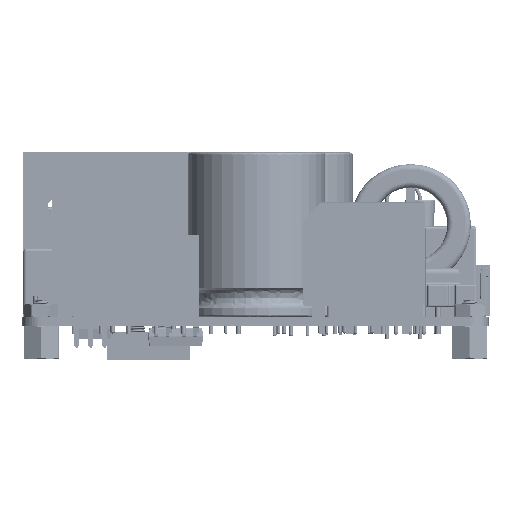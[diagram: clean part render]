
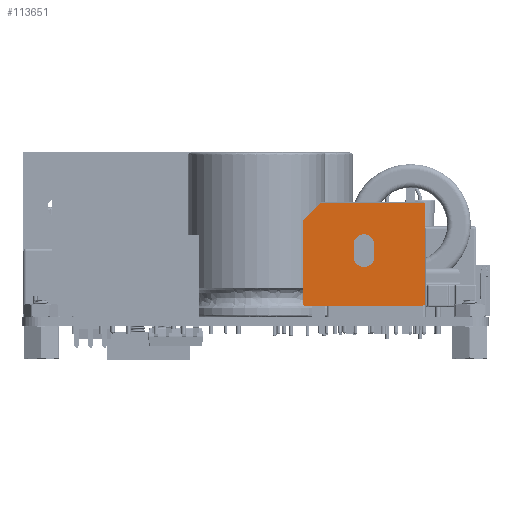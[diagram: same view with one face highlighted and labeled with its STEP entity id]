
A CAD part, left-side view. The second image highlights one B-rep face of the part: STEP entity #113651.
In plain terms, the highlighted planar face has unit normal (-1, 0, 0) as drawn and (0, 0, -1) by its records, which use the part's own axes.
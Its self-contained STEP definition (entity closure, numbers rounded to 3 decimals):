
#31 = CARTESIAN_POINT ( 'NONE',  ( -21.5, -18.3, 0. ) ) ;
#222 = ORIENTED_EDGE ( 'NONE', *, *, #97056, .T. ) ;
#501 = DIRECTION ( 'NONE',  ( 0., 0., 1. ) ) ;
#1021 = VERTEX_POINT ( 'NONE', #67931 ) ;
#1466 = DIRECTION ( 'NONE',  ( -1., 0., 0. ) ) ;
#1856 = EDGE_CURVE ( 'NONE', #43758, #18194, #53282, .T. ) ;
#6099 = EDGE_LOOP ( 'NONE', ( #222, #89753, #165479, #183376 ) ) ;
#6536 = AXIS2_PLACEMENT_3D ( 'NONE', #31, #145001, #12822 ) ;
#6816 = CARTESIAN_POINT ( 'NONE',  ( -22., -0.116, 0. ) ) ;
#9221 = AXIS2_PLACEMENT_3D ( 'NONE', #98792, #69577, #55507 ) ;
#12822 = DIRECTION ( 'NONE',  ( -1., 0., 0. ) ) ;
#15477 = ORIENTED_EDGE ( 'NONE', *, *, #185920, .F. ) ;
#15758 = DIRECTION ( 'NONE',  ( 0., -1., 0. ) ) ;
#18194 = VERTEX_POINT ( 'NONE', #40954 ) ;
#19883 = CARTESIAN_POINT ( 'NONE',  ( -21.5, -18.8, 0. ) ) ;
#23436 = VECTOR ( 'NONE', #112856, 1000. ) ;
#26505 = CARTESIAN_POINT ( 'NONE',  ( -10.875, -9.86, 0. ) ) ;
#28058 = EDGE_CURVE ( 'NONE', #60786, #171187, #127644, .T. ) ;
#28490 = AXIS2_PLACEMENT_3D ( 'NONE', #26505, #55683, #128171 ) ;
#28533 = VECTOR ( 'NONE', #155761, 1000. ) ;
#30070 = CARTESIAN_POINT ( 'NONE',  ( -12.775, -7.7, 0. ) ) ;
#33429 = CARTESIAN_POINT ( 'NONE',  ( -22., -18.8, 0. ) ) ;
#37010 = EDGE_CURVE ( 'NONE', #127571, #140791, #84884, .T. ) ;
#39493 = CIRCLE ( 'NONE', #6536, 0.5 ) ;
#39577 = VECTOR ( 'NONE', #91256, 1000. ) ;
#40954 = CARTESIAN_POINT ( 'NONE',  ( 0.3, -3.3, 0. ) ) ;
#42399 = CARTESIAN_POINT ( 'NONE',  ( 0.3, -18.3, 0. ) ) ;
#43758 = VERTEX_POINT ( 'NONE', #107376 ) ;
#43915 = ORIENTED_EDGE ( 'NONE', *, *, #126570, .F. ) ;
#44653 = CARTESIAN_POINT ( 'NONE',  ( -21.75, -0.25, 0. ) ) ;
#47550 = DIRECTION ( 'NONE',  ( 0., 1., 0. ) ) ;
#53282 = LINE ( 'NONE', #133235, #39577 ) ;
#54600 = ORIENTED_EDGE ( 'NONE', *, *, #1856, .T. ) ;
#55507 = DIRECTION ( 'NONE',  ( -1., 0., 0. ) ) ;
#55683 = DIRECTION ( 'NONE',  ( 0., 0., 1. ) ) ;
#55908 = CARTESIAN_POINT ( 'NONE',  ( -22., -18.8, 0. ) ) ;
#58365 = CIRCLE ( 'NONE', #97062, 0.25 ) ;
#60786 = VERTEX_POINT ( 'NONE', #69290 ) ;
#63353 = LINE ( 'NONE', #6816, #108894 ) ;
#64497 = EDGE_CURVE ( 'NONE', #1021, #121126, #58365, .T. ) ;
#67677 = CARTESIAN_POINT ( 'NONE',  ( -22., -0.25, 0. ) ) ;
#67931 = CARTESIAN_POINT ( 'NONE',  ( -21.961, -0.116, 0. ) ) ;
#69290 = CARTESIAN_POINT ( 'NONE',  ( -8.975, -7.7, 0. ) ) ;
#69577 = DIRECTION ( 'NONE',  ( 0., 0., 1. ) ) ;
#71351 = VECTOR ( 'NONE', #15758, 1000. ) ;
#74819 = AXIS2_PLACEMENT_3D ( 'NONE', #33429, #180867, #106543 ) ;
#74867 = CARTESIAN_POINT ( 'NONE',  ( -12.775, -18.8, 0. ) ) ;
#84142 = VECTOR ( 'NONE', #47550, 1000. ) ;
#84884 = CIRCLE ( 'NONE', #28490, 1.9 ) ;
#89753 = ORIENTED_EDGE ( 'NONE', *, *, #37010, .T. ) ;
#91256 = DIRECTION ( 'NONE',  ( 0.707, -0.707, 0. ) ) ;
#93351 = DIRECTION ( 'NONE',  ( 1., 0., 0. ) ) ;
#97056 = EDGE_CURVE ( 'NONE', #171187, #127571, #100814, .T. ) ;
#97062 = AXIS2_PLACEMENT_3D ( 'NONE', #44653, #175020, #1466 ) ;
#97388 = EDGE_CURVE ( 'NONE', #18194, #114061, #107394, .T. ) ;
#98297 = CARTESIAN_POINT ( 'NONE',  ( -22., -18.8, 0. ) ) ;
#98303 = EDGE_CURVE ( 'NONE', #140791, #60786, #109052, .T. ) ;
#98792 = CARTESIAN_POINT ( 'NONE',  ( -10.875, -7.7, 0. ) ) ;
#100814 = LINE ( 'NONE', #74867, #71351 ) ;
#101198 = AXIS2_PLACEMENT_3D ( 'NONE', #175297, #501, #144205 ) ;
#106543 = DIRECTION ( 'NONE',  ( -1., 0., 0. ) ) ;
#107376 = CARTESIAN_POINT ( 'NONE',  ( -2.884, -0.116, 0. ) ) ;
#107394 = LINE ( 'NONE', #185261, #155166 ) ;
#108894 = VECTOR ( 'NONE', #93351, 1000. ) ;
#109052 = LINE ( 'NONE', #133500, #84142 ) ;
#110453 = VERTEX_POINT ( 'NONE', #175018 ) ;
#112856 = DIRECTION ( 'NONE',  ( 0., 1., 0. ) ) ;
#113651 = ADVANCED_FACE ( 'NONE', ( #162984, #176667 ), #175884, .T. ) ;
#114061 = VERTEX_POINT ( 'NONE', #42399 ) ;
#114139 = VERTEX_POINT ( 'NONE', #182882 ) ;
#117139 = EDGE_CURVE ( 'NONE', #110453, #121126, #141799, .T. ) ;
#119687 = ORIENTED_EDGE ( 'NONE', *, *, #64497, .F. ) ;
#121126 = VERTEX_POINT ( 'NONE', #67677 ) ;
#122122 = ORIENTED_EDGE ( 'NONE', *, *, #97388, .T. ) ;
#126443 = CIRCLE ( 'NONE', #101198, 0.5 ) ;
#126570 = EDGE_CURVE ( 'NONE', #110453, #148608, #39493, .T. ) ;
#127571 = VERTEX_POINT ( 'NONE', #135633 ) ;
#127644 = CIRCLE ( 'NONE', #9221, 1.9 ) ;
#128024 = DIRECTION ( 'NONE',  ( 0., -1., 0. ) ) ;
#128171 = DIRECTION ( 'NONE',  ( -1., 0., 0. ) ) ;
#133235 = CARTESIAN_POINT ( 'NONE',  ( -2.884, -0.116, 0. ) ) ;
#133500 = CARTESIAN_POINT ( 'NONE',  ( -8.975, -18.8, 0. ) ) ;
#135633 = CARTESIAN_POINT ( 'NONE',  ( -12.775, -9.86, 0. ) ) ;
#140582 = ORIENTED_EDGE ( 'NONE', *, *, #180445, .T. ) ;
#140791 = VERTEX_POINT ( 'NONE', #147828 ) ;
#141799 = LINE ( 'NONE', #98297, #23436 ) ;
#142961 = ORIENTED_EDGE ( 'NONE', *, *, #117139, .T. ) ;
#144205 = DIRECTION ( 'NONE',  ( -1., 0., 0. ) ) ;
#145001 = DIRECTION ( 'NONE',  ( 0., 0., 1. ) ) ;
#147828 = CARTESIAN_POINT ( 'NONE',  ( -8.975, -9.86, 0. ) ) ;
#148608 = VERTEX_POINT ( 'NONE', #19883 ) ;
#155166 = VECTOR ( 'NONE', #128024, 1000. ) ;
#155761 = DIRECTION ( 'NONE',  ( -1., 0., 0. ) ) ;
#162450 = EDGE_CURVE ( 'NONE', #114139, #148608, #180993, .T. ) ;
#162984 = FACE_BOUND ( 'NONE', #6099, .T. ) ;
#165255 = ORIENTED_EDGE ( 'NONE', *, *, #162450, .T. ) ;
#165479 = ORIENTED_EDGE ( 'NONE', *, *, #98303, .T. ) ;
#169817 = EDGE_LOOP ( 'NONE', ( #140582, #54600, #122122, #15477, #165255, #43915, #142961, #119687 ) ) ;
#171187 = VERTEX_POINT ( 'NONE', #30070 ) ;
#175018 = CARTESIAN_POINT ( 'NONE',  ( -22., -18.3, 0. ) ) ;
#175020 = DIRECTION ( 'NONE',  ( 0., 0., 1. ) ) ;
#175297 = CARTESIAN_POINT ( 'NONE',  ( -0.2, -18.3, 0. ) ) ;
#175884 = PLANE ( 'NONE',  #74819 ) ;
#176667 = FACE_OUTER_BOUND ( 'NONE', #169817, .T. ) ;
#180445 = EDGE_CURVE ( 'NONE', #1021, #43758, #63353, .T. ) ;
#180867 = DIRECTION ( 'NONE',  ( 0., 0., -1. ) ) ;
#180993 = LINE ( 'NONE', #55908, #28533 ) ;
#182882 = CARTESIAN_POINT ( 'NONE',  ( -0.2, -18.8, 0. ) ) ;
#183376 = ORIENTED_EDGE ( 'NONE', *, *, #28058, .T. ) ;
#185261 = CARTESIAN_POINT ( 'NONE',  ( 0.3, -18.8, 0. ) ) ;
#185920 = EDGE_CURVE ( 'NONE', #114139, #114061, #126443, .T. ) ;
